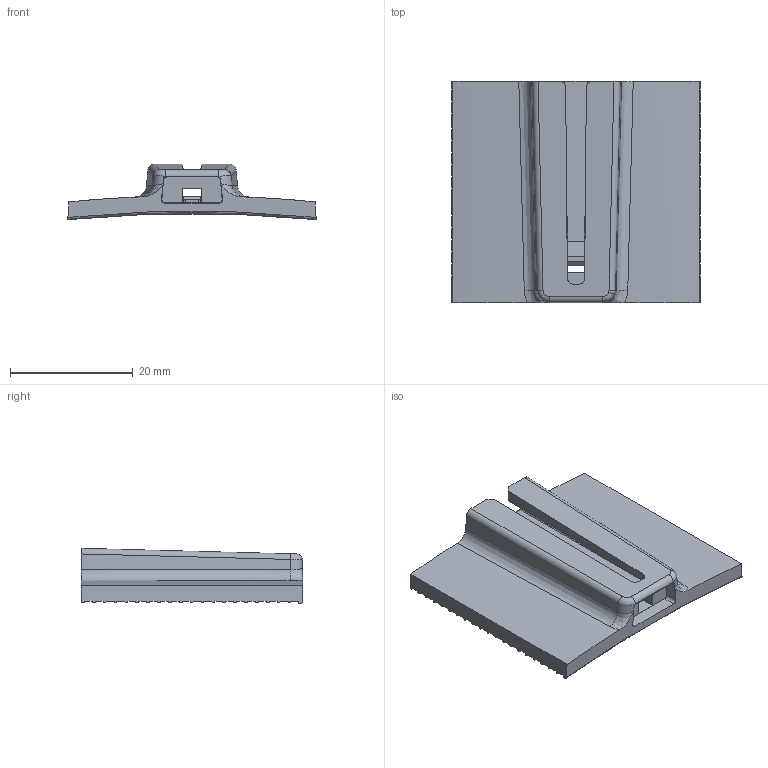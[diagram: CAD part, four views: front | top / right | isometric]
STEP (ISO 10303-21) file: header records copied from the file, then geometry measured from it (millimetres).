
FILE_DESCRIPTION (( 'STEP AP203' ), '1' );
FILE_NAME ('00017835 - FINGER TIP 2 PADDLE.step', '2013-04-05T16:24:48', ( '' ), ( '' ), 'SwSTEP 2.0', 'SolidWorks 2012', '' );
FILE_SCHEMA (( 'CONFIG_CONTROL_DESIGN' ));
Length unit declared in the file: millimetre
Products named in the file (1): 00017835 - FINGER TIP 2 PADDLE
Bounding box: 40.41 x 36 x 9 mm (x, y, z)
Volume: 4648.5 mm3; surface area: 4738.2 mm2
Topology: 1 solids, 1 shells, 253 faces, 719 edges, 456 vertices
Faces by surface type: cylinder 94, bspline 85, plane 64, sphere 10
Entity records: 14203 total; most frequent: CARTESIAN_POINT 8799, ORIENTED_EDGE 1418, DIRECTION 715, EDGE_CURVE 709, VERTEX_POINT 456, B_SPLINE_CURVE_WITH_KNOTS 295, EDGE_LOOP 255, FACE_OUTER_BOUND 253
